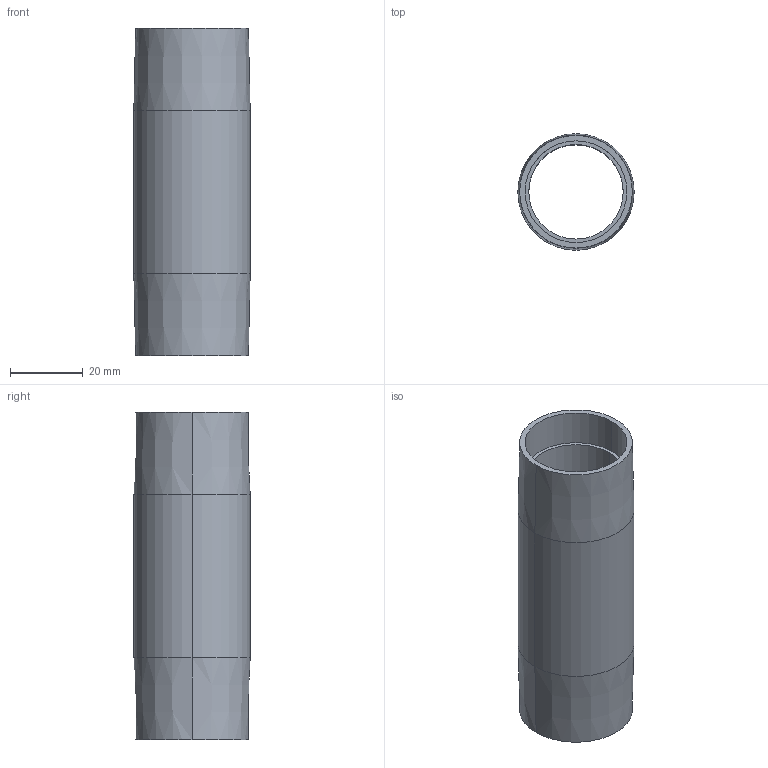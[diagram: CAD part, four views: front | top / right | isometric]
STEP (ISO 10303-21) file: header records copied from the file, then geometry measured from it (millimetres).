
FILE_DESCRIPTION (( 'STEP AP214' ), '1' );
FILE_NAME ('084.030.107.STEP', '2021-02-05T15:33:12', ( '' ), ( '' ), 'SwSTEP 2.0', 'SolidWorks 2018', '' );
FILE_SCHEMA (( 'AUTOMOTIVE_DESIGN' ));
Length unit declared in the file: millimetre
Products named in the file (1): 084.030.107
Bounding box: 32 x 32 x 90 mm (x, y, z)
Volume: 21783 mm3; surface area: 16902.9 mm2
Topology: 1 solids, 1 shells, 16 faces, 32 edges, 20 vertices
Faces by surface type: cylinder 8, cone 4, plane 4
Entity records: 462 total; most frequent: DIRECTION 86, CARTESIAN_POINT 69, ORIENTED_EDGE 64, AXIS2_PLACEMENT_3D 37, EDGE_CURVE 32, CIRCLE 20, VERTEX_POINT 20, EDGE_LOOP 20
